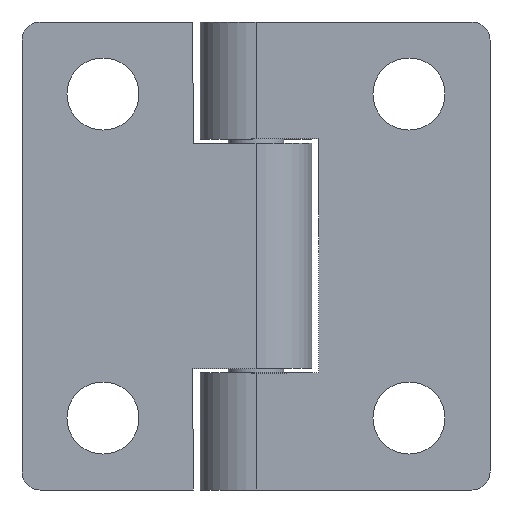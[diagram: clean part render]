
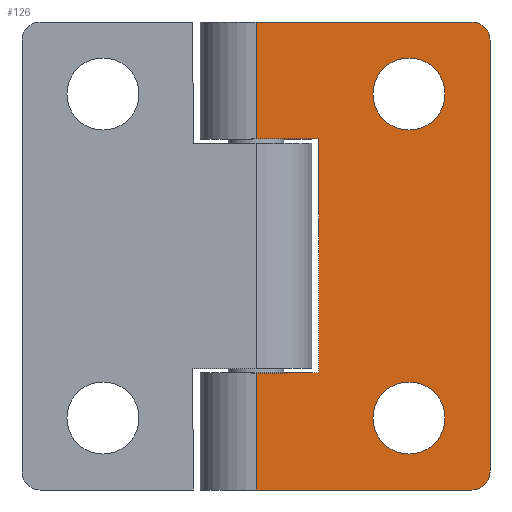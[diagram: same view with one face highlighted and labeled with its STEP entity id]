
A CAD part, front view. The second image highlights one B-rep face of the part: STEP entity #126.
In plain terms, the highlighted planar face has unit normal (0, -1, 0).
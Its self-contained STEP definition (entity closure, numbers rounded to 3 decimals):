
#14 = DIRECTION ( 'NONE',  ( 0., -1., 0. ) ) ;
#30 = CARTESIAN_POINT ( 'NONE',  ( 8.5, 0., -7. ) ) ;
#36 = CIRCLE ( 'NONE', #1344, 2. ) ;
#43 = CARTESIAN_POINT ( 'NONE',  ( 13., 0., -12. ) ) ;
#56 = LINE ( 'NONE', #279, #321 ) ;
#70 = DIRECTION ( 'NONE',  ( 1., 0., 0. ) ) ;
#94 = DIRECTION ( 'NONE',  ( 0., 0., 1. ) ) ;
#97 = VERTEX_POINT ( 'NONE', #1199 ) ;
#107 = DIRECTION ( 'NONE',  ( 0., 0., 1. ) ) ;
#126 = ADVANCED_FACE ( 'NONE', ( #393, #638, #410 ), #1249, .T. ) ;
#141 = EDGE_CURVE ( 'NONE', #906, #97, #933, .T. ) ;
#143 = CIRCLE ( 'NONE', #1287, 1. ) ;
#155 = CARTESIAN_POINT ( 'NONE',  ( 0., 0., 13. ) ) ;
#177 = VERTEX_POINT ( 'NONE', #1022 ) ;
#179 = AXIS2_PLACEMENT_3D ( 'NONE', #892, #750, #882 ) ;
#186 = ORIENTED_EDGE ( 'NONE', *, *, #488, .F. ) ;
#190 = CARTESIAN_POINT ( 'NONE',  ( 0., 0., 6.5 ) ) ;
#204 = CIRCLE ( 'NONE', #616, 2. ) ;
#206 = CARTESIAN_POINT ( 'NONE',  ( 12., 0., 13. ) ) ;
#220 = LINE ( 'NONE', #841, #542 ) ;
#266 = CIRCLE ( 'NONE', #669, 1. ) ;
#269 = EDGE_CURVE ( 'NONE', #1552, #664, #1452, .T. ) ;
#279 = CARTESIAN_POINT ( 'NONE',  ( 0., 0., -6.5 ) ) ;
#303 = ORIENTED_EDGE ( 'NONE', *, *, #1384, .F. ) ;
#312 = EDGE_CURVE ( 'NONE', #524, #177, #204, .T. ) ;
#321 = VECTOR ( 'NONE', #1489, 1000. ) ;
#353 = DIRECTION ( 'NONE',  ( 0., 0., 1. ) ) ;
#366 = AXIS2_PLACEMENT_3D ( 'NONE', #743, #14, #1483 ) ;
#376 = ORIENTED_EDGE ( 'NONE', *, *, #1315, .F. ) ;
#377 = AXIS2_PLACEMENT_3D ( 'NONE', #467, #581, #1448 ) ;
#383 = CARTESIAN_POINT ( 'NONE',  ( 0., 0., -6.5 ) ) ;
#388 = CARTESIAN_POINT ( 'NONE',  ( 13., 0., 12. ) ) ;
#393 = FACE_BOUND ( 'NONE', #833, .T. ) ;
#402 = VECTOR ( 'NONE', #1410, 1000. ) ;
#407 = DIRECTION ( 'NONE',  ( 1., 0., 0. ) ) ;
#410 = FACE_OUTER_BOUND ( 'NONE', #816, .T. ) ;
#421 = LINE ( 'NONE', #911, #808 ) ;
#427 = ORIENTED_EDGE ( 'NONE', *, *, #269, .F. ) ;
#436 = DIRECTION ( 'NONE',  ( 0., -1., 0. ) ) ;
#443 = CARTESIAN_POINT ( 'NONE',  ( 3.5, 0., -6.5 ) ) ;
#448 = ORIENTED_EDGE ( 'NONE', *, *, #141, .F. ) ;
#460 = LINE ( 'NONE', #1427, #539 ) ;
#467 = CARTESIAN_POINT ( 'NONE',  ( 8.5, 0., 9. ) ) ;
#475 = ORIENTED_EDGE ( 'NONE', *, *, #1519, .F. ) ;
#488 = EDGE_CURVE ( 'NONE', #97, #906, #1087, .T. ) ;
#505 = DIRECTION ( 'NONE',  ( 0., 0., 1. ) ) ;
#516 = LINE ( 'NONE', #1503, #1034 ) ;
#524 = VERTEX_POINT ( 'NONE', #30 ) ;
#529 = DIRECTION ( 'NONE',  ( 1., 0., 0. ) ) ;
#534 = VECTOR ( 'NONE', #353, 1000. ) ;
#539 = VECTOR ( 'NONE', #94, 1000. ) ;
#540 = CARTESIAN_POINT ( 'NONE',  ( 8.5, 0., -9. ) ) ;
#542 = VECTOR ( 'NONE', #107, 1000. ) ;
#553 = ORIENTED_EDGE ( 'NONE', *, *, #893, .T. ) ;
#558 = DIRECTION ( 'NONE',  ( 1., 0., 0. ) ) ;
#577 = DIRECTION ( 'NONE',  ( 1., 0., 0. ) ) ;
#581 = DIRECTION ( 'NONE',  ( 0., -1., 0. ) ) ;
#584 = EDGE_CURVE ( 'NONE', #1429, #738, #1119, .T. ) ;
#616 = AXIS2_PLACEMENT_3D ( 'NONE', #1267, #1439, #558 ) ;
#638 = FACE_BOUND ( 'NONE', #1391, .T. ) ;
#664 = VERTEX_POINT ( 'NONE', #383 ) ;
#669 = AXIS2_PLACEMENT_3D ( 'NONE', #928, #1413, #577 ) ;
#709 = ORIENTED_EDGE ( 'NONE', *, *, #889, .F. ) ;
#738 = VERTEX_POINT ( 'NONE', #388 ) ;
#743 = CARTESIAN_POINT ( 'NONE',  ( 0., 0., -13. ) ) ;
#750 = DIRECTION ( 'NONE',  ( 0., -1., 0. ) ) ;
#782 = ORIENTED_EDGE ( 'NONE', *, *, #584, .T. ) ;
#785 = EDGE_CURVE ( 'NONE', #177, #524, #36, .T. ) ;
#808 = VECTOR ( 'NONE', #1394, 1000. ) ;
#810 = ORIENTED_EDGE ( 'NONE', *, *, #785, .F. ) ;
#816 = EDGE_LOOP ( 'NONE', ( #958, #553, #782, #942, #376, #709, #1507, #303, #475, #427 ) ) ;
#822 = CARTESIAN_POINT ( 'NONE',  ( 0., 0., -13. ) ) ;
#833 = EDGE_LOOP ( 'NONE', ( #1139, #810 ) ) ;
#841 = CARTESIAN_POINT ( 'NONE',  ( 3.5, 0., 6.5 ) ) ;
#882 = DIRECTION ( 'NONE',  ( 1., 0., 0. ) ) ;
#887 = CARTESIAN_POINT ( 'NONE',  ( 13., 0., -13. ) ) ;
#889 = EDGE_CURVE ( 'NONE', #930, #1200, #460, .T. ) ;
#892 = CARTESIAN_POINT ( 'NONE',  ( 8.5, 0., 9. ) ) ;
#893 = EDGE_CURVE ( 'NONE', #1457, #1429, #266, .T. ) ;
#894 = DIRECTION ( 'NONE',  ( 0., -1., 0. ) ) ;
#906 = VERTEX_POINT ( 'NONE', #1073 ) ;
#911 = CARTESIAN_POINT ( 'NONE',  ( -3.1, 0., 6.5 ) ) ;
#926 = LINE ( 'NONE', #1533, #402 ) ;
#928 = CARTESIAN_POINT ( 'NONE',  ( 12., 0., -12. ) ) ;
#930 = VERTEX_POINT ( 'NONE', #190 ) ;
#933 = CIRCLE ( 'NONE', #179, 2. ) ;
#942 = ORIENTED_EDGE ( 'NONE', *, *, #1337, .T. ) ;
#958 = ORIENTED_EDGE ( 'NONE', *, *, #1102, .T. ) ;
#1022 = CARTESIAN_POINT ( 'NONE',  ( 8.5, 0., -11. ) ) ;
#1034 = VECTOR ( 'NONE', #407, 1000. ) ;
#1073 = CARTESIAN_POINT ( 'NONE',  ( 8.5, 0., 11. ) ) ;
#1087 = CIRCLE ( 'NONE', #377, 2. ) ;
#1102 = EDGE_CURVE ( 'NONE', #1552, #1457, #516, .T. ) ;
#1119 = LINE ( 'NONE', #887, #1257 ) ;
#1139 = ORIENTED_EDGE ( 'NONE', *, *, #312, .F. ) ;
#1166 = CARTESIAN_POINT ( 'NONE',  ( 12., 0., 12. ) ) ;
#1199 = CARTESIAN_POINT ( 'NONE',  ( 8.5, 0., 7. ) ) ;
#1200 = VERTEX_POINT ( 'NONE', #155 ) ;
#1225 = EDGE_CURVE ( 'NONE', #1559, #930, #421, .T. ) ;
#1248 = CARTESIAN_POINT ( 'NONE',  ( 12., 0., -13. ) ) ;
#1249 = PLANE ( 'NONE',  #366 ) ;
#1257 = VECTOR ( 'NONE', #505, 1000. ) ;
#1267 = CARTESIAN_POINT ( 'NONE',  ( 8.5, 0., -9. ) ) ;
#1287 = AXIS2_PLACEMENT_3D ( 'NONE', #1166, #436, #70 ) ;
#1315 = EDGE_CURVE ( 'NONE', #1200, #1544, #926, .T. ) ;
#1337 = EDGE_CURVE ( 'NONE', #738, #1544, #143, .T. ) ;
#1344 = AXIS2_PLACEMENT_3D ( 'NONE', #540, #894, #529 ) ;
#1384 = EDGE_CURVE ( 'NONE', #1556, #1559, #220, .T. ) ;
#1391 = EDGE_LOOP ( 'NONE', ( #448, #186 ) ) ;
#1394 = DIRECTION ( 'NONE',  ( -1., 0., 0. ) ) ;
#1410 = DIRECTION ( 'NONE',  ( 1., 0., 0. ) ) ;
#1413 = DIRECTION ( 'NONE',  ( 0., -1., 0. ) ) ;
#1427 = CARTESIAN_POINT ( 'NONE',  ( 0., 0., -13. ) ) ;
#1429 = VERTEX_POINT ( 'NONE', #43 ) ;
#1439 = DIRECTION ( 'NONE',  ( 0., -1., 0. ) ) ;
#1448 = DIRECTION ( 'NONE',  ( 1., 0., 0. ) ) ;
#1452 = LINE ( 'NONE', #1466, #534 ) ;
#1457 = VERTEX_POINT ( 'NONE', #1248 ) ;
#1466 = CARTESIAN_POINT ( 'NONE',  ( 0., 0., -13. ) ) ;
#1483 = DIRECTION ( 'NONE',  ( 1., 0., 0. ) ) ;
#1489 = DIRECTION ( 'NONE',  ( 1., 0., 0. ) ) ;
#1503 = CARTESIAN_POINT ( 'NONE',  ( 0., 0., -13. ) ) ;
#1507 = ORIENTED_EDGE ( 'NONE', *, *, #1225, .F. ) ;
#1519 = EDGE_CURVE ( 'NONE', #664, #1556, #56, .T. ) ;
#1526 = CARTESIAN_POINT ( 'NONE',  ( 3.5, 0., 6.5 ) ) ;
#1533 = CARTESIAN_POINT ( 'NONE',  ( 0., 0., 13. ) ) ;
#1544 = VERTEX_POINT ( 'NONE', #206 ) ;
#1552 = VERTEX_POINT ( 'NONE', #822 ) ;
#1556 = VERTEX_POINT ( 'NONE', #443 ) ;
#1559 = VERTEX_POINT ( 'NONE', #1526 ) ;
